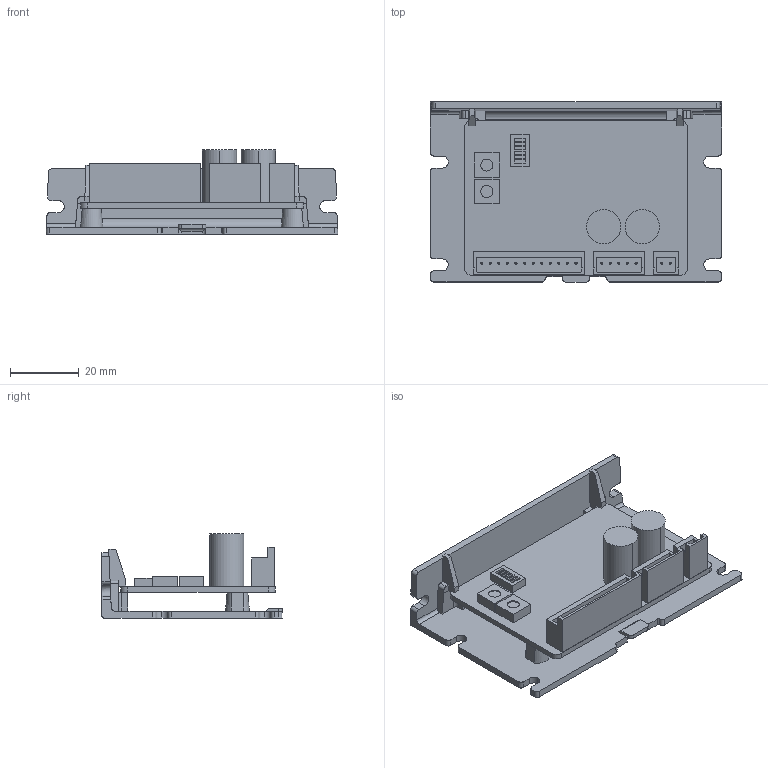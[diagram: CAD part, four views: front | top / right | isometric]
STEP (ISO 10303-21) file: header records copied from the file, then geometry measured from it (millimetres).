
FILE_DESCRIPTION (( 'STEP AP203' ), '1' );
FILE_NAME ('SWP_150818_2293.STEP', '2015-08-18T00:19:56', ( 'om' ), ( 'Hewlett-Packard Company' ), 'SwSTEP 2.0', 'SolidWorks 2014', '' );
FILE_SCHEMA (( 'CONFIG_CONTROL_DESIGN' ));
Length unit declared in the file: millimetre
Products named in the file (1): SWP_150818_2293
Bounding box: 85 x 52.5 x 24.5 mm (x, y, z)
Volume: 22918.4 mm3; surface area: 22119.2 mm2
Topology: 1 solids, 3 shells, 298 faces, 765 edges, 502 vertices
Faces by surface type: plane 193, cylinder 51, cone 46, bspline 4, torus 4
Entity records: 9122 total; most frequent: CARTESIAN_POINT 1776, ORIENTED_EDGE 1530, DIRECTION 1469, EDGE_CURVE 765, VECTOR 551, LINE 551, VERTEX_POINT 502, AXIS2_PLACEMENT_3D 459
